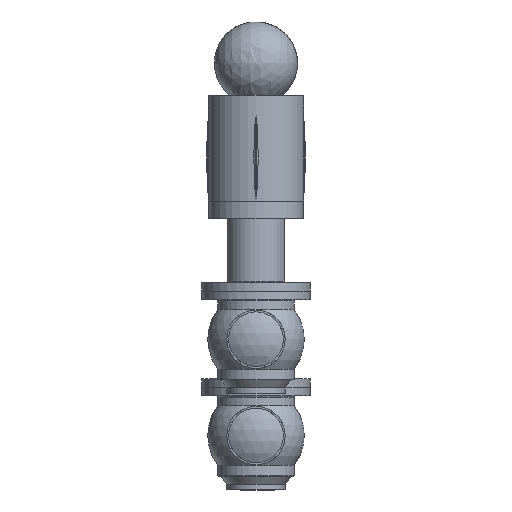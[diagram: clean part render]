
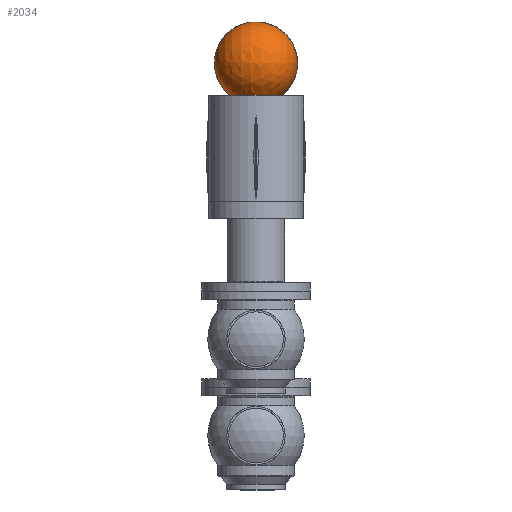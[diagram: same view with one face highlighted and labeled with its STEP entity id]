
A CAD part, left-side view. The second image highlights one B-rep face of the part: STEP entity #2034.
In plain terms, the highlighted spherical face has radius 72.5 mm.
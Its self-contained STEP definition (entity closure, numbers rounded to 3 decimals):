
#123=SPHERICAL_SURFACE('',#2361,72.5);
#244=FACE_BOUND('',#458,.T.);
#334=FACE_OUTER_BOUND('',#457,.T.);
#457=EDGE_LOOP('',(#1565,#1566));
#458=EDGE_LOOP('',(#1567));
#703=CIRCLE('',#2362,72.5);
#704=CIRCLE('',#2363,46.648);
#923=VERTEX_POINT('',#3885);
#924=VERTEX_POINT('',#3886);
#925=VERTEX_POINT('',#3888);
#1171=EDGE_CURVE('',#923,#924,#703,.T.);
#1172=EDGE_CURVE('',#925,#925,#704,.T.);
#1565=ORIENTED_EDGE('',*,*,#1171,.T.);
#1566=ORIENTED_EDGE('',*,*,#1171,.F.);
#1567=ORIENTED_EDGE('',*,*,#1172,.F.);
#2034=ADVANCED_FACE('',(#334,#244),#123,.T.);
#2361=AXIS2_PLACEMENT_3D('',#3884,#2825,#2826);
#2362=AXIS2_PLACEMENT_3D('',#3887,#2827,#2828);
#2363=AXIS2_PLACEMENT_3D('',#3889,#2829,#2830);
#2825=DIRECTION('center_axis',(0.,0.,1.));
#2826=DIRECTION('ref_axis',(1.,0.,0.));
#2827=DIRECTION('center_axis',(0.,-1.,0.));
#2828=DIRECTION('ref_axis',(-1.,0.,0.));
#2829=DIRECTION('center_axis',(0.,-1.,0.));
#2830=DIRECTION('ref_axis',(1.,0.,0.));
#3884=CARTESIAN_POINT('Origin',(150.,266.5,0.));
#3885=CARTESIAN_POINT('',(150.,266.5,72.5));
#3886=CARTESIAN_POINT('',(150.,266.5,-72.5));
#3887=CARTESIAN_POINT('Origin',(150.,266.5,0.));
#3888=CARTESIAN_POINT('',(196.648,211.,0.));
#3889=CARTESIAN_POINT('Origin',(150.,211.,0.));
